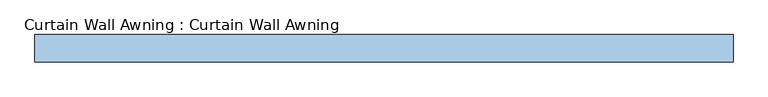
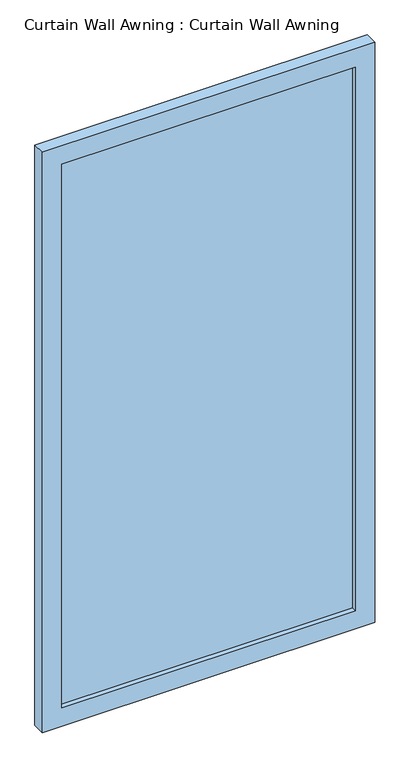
"""IFC4 building model written with IfcOpenShell, lengths in millimetres: window geometry, Curtain Wall Awning : Curtain Wall Awning."""

from ifc_helpers import new_model, si_unit, frame, origin, place, context, project, spatial, polyline, outline, extrude, source, transform, mapped, element, save


def curtain_wall_awning_curtain_wall_awning_d595c0fd(model_context):
    return source(origin(), model_context, "Body", "SweptSolid", [
        extrude(outline(polyline([(573.8, 44.45), (-573.8, 44.45), (-573.8, 57.15), (573.8, 57.15), (573.8, 44.45)])), frame((0.0, 0.0, 76.2), z_axis=(0.0, 0.0, 1.0), x_axis=(1.0, 0.0, 0.0)), (0.0, 0.0, 1.0), 2247.6),
        extrude(outline(polyline([(2400.0, -650.0), (0.0, -650.0), (0.0, 650.0), (2400.0, 650.0), (2400.0, -650.0)]), holes=[polyline([(2323.8, -573.8), (2323.8, 573.8), (76.2, 573.8), (76.2, -573.8), (2323.8, -573.8)])]), frame((0.0, 25.4, 0.0), z_axis=(0.0, 1.0, 0.0), x_axis=(0.0, 0.0, 1.0)), (0.0, 0.0, 1.0), 50.8),
    ])


if __name__ == "__main__":
    model = new_model("IFC4")
    model_context = context("Model", 3, world=origin())
    ifc_project = project(units=[si_unit("LENGTHUNIT", "METRE", prefix="MILLI")], contexts=[model_context])
    site = spatial("IfcSite", under=ifc_project)
    building = spatial("IfcBuilding", under=site)
    placement = place(None, origin())
    curtain_wall_awning_curtain_wall_awning_shape = curtain_wall_awning_curtain_wall_awning_d595c0fd(model_context)
    element("IfcWindow", 1, ObjectType="Curtain Wall Awning : Curtain Wall Awning", at=placement, inside=building, context=model_context, shape_type="MappedRepresentation", body=[
        mapped(curtain_wall_awning_curtain_wall_awning_shape, transform((0.0, 0.0, 0.0), x_axis=(1.0, 0.0, 0.0), y_axis=(0.0, 1.0, 0.0), z_axis=(0.0, 0.0, 1.0))),
    ])
    save(model, "model.ifc")
